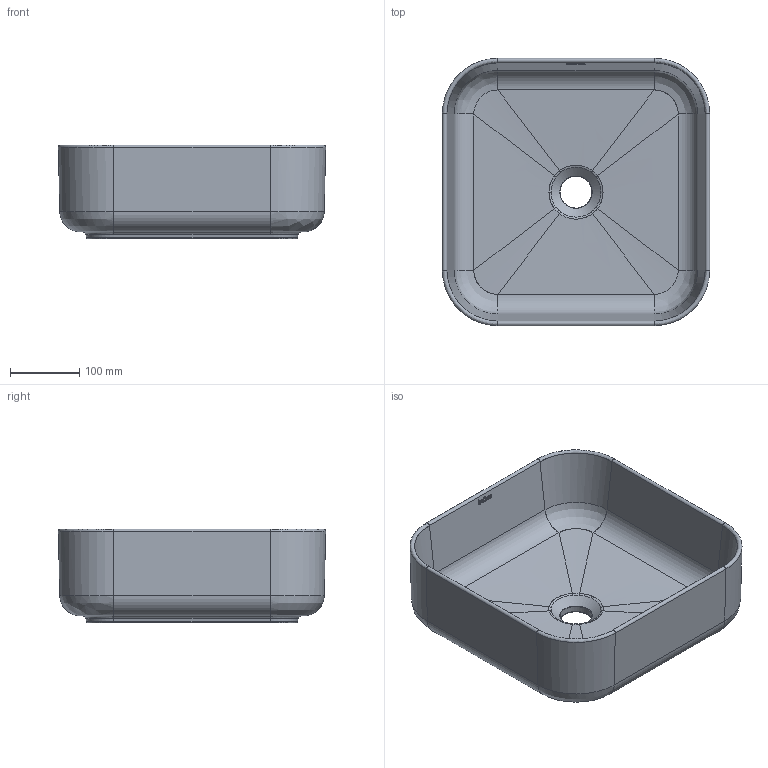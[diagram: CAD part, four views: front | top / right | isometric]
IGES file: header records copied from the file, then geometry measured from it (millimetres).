
Global section: file name: C:\Users\User\Desktop\4152 4153 New Dinan Square\4152 4153 New Dinan Square .igs; native system: Rhinoceros ( Feb 26 2015 ); preprocessor: Trout Lake IGES 012 Feb 26 2015; date: 200918.125303; units: millimetre
Bounding box: 384.85 x 384.85 x 135 mm (x, y, z)
Surface area: 559196.6 mm2 (no closed solid volume)
Topology: 0 solids, 0 shells, 207 faces, 1108 edges, 1095 vertices
Faces by surface type: bspline 207
